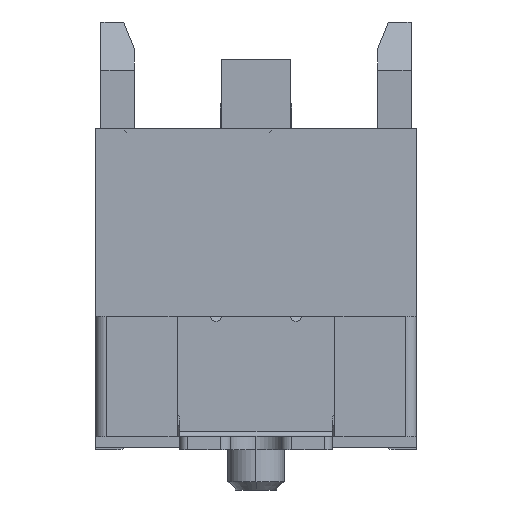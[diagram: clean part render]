
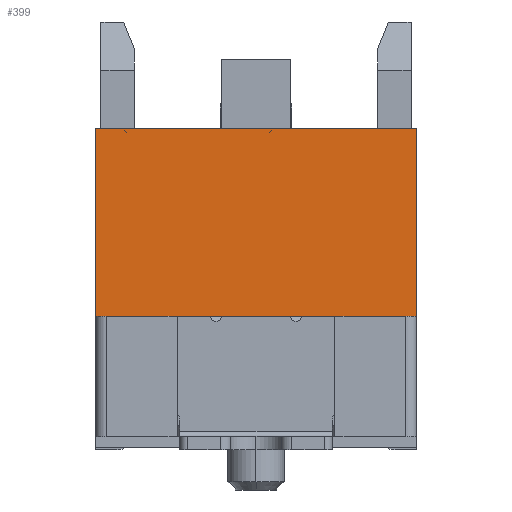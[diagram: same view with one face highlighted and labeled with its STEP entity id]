
A CAD part, left-side view. The second image highlights one B-rep face of the part: STEP entity #399.
In plain terms, the highlighted planar face has unit normal (-1, 0, 0).
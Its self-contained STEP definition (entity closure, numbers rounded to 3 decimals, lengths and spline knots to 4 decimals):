
#150=CARTESIAN_POINT('Vertex',(-26.4,3.,5.4)) ;
#153=CARTESIAN_POINT('Line Origine',(-26.4,3.,7.15)) ;
#157=CARTESIAN_POINT('Vertex',(-26.4,3.,8.9)) ;
#344=CARTESIAN_POINT('Line Origine',(-26.4,0.,8.9)) ;
#348=CARTESIAN_POINT('Vertex',(-26.4,-3.,8.9)) ;
#376=CARTESIAN_POINT('Axis2P3D Location',(-26.4,-3.,5.4)) ;
#381=CARTESIAN_POINT('Line Origine',(-26.4,0.,5.4)) ;
#385=CARTESIAN_POINT('Vertex',(-26.4,-3.,5.4)) ;
#388=CARTESIAN_POINT('Line Origine',(-26.4,-3.,7.15)) ;
#154=DIRECTION('Vector Direction',(0.,0.,1.)) ;
#345=DIRECTION('Vector Direction',(0.,1.,0.)) ;
#377=DIRECTION('Axis2P3D Direction',(-1.,0.,0.)) ;
#378=DIRECTION('Axis2P3D XDirection',(0.,0.,1.)) ;
#382=DIRECTION('Vector Direction',(0.,1.,0.)) ;
#389=DIRECTION('Vector Direction',(0.,0.,1.)) ;
#379=AXIS2_PLACEMENT_3D('Plane Axis2P3D',#376,#377,#378) ;
#394=ORIENTED_EDGE('',*,*,#387,.F.) ;
#395=ORIENTED_EDGE('',*,*,#392,.T.) ;
#396=ORIENTED_EDGE('',*,*,#350,.T.) ;
#397=ORIENTED_EDGE('',*,*,#159,.F.) ;
#155=VECTOR('Line Direction',#154,1.) ;
#346=VECTOR('Line Direction',#345,1.) ;
#383=VECTOR('Line Direction',#382,1.) ;
#390=VECTOR('Line Direction',#389,1.) ;
#399=ADVANCED_FACE('\X2\585180F6\X0\2',(#398),#380,.T.) ;
#159=EDGE_CURVE('',#151,#158,#156,.T.) ;
#350=EDGE_CURVE('',#349,#158,#347,.T.) ;
#387=EDGE_CURVE('',#386,#151,#384,.T.) ;
#392=EDGE_CURVE('',#386,#349,#391,.T.) ;
#393=EDGE_LOOP('',(#394,#395,#396,#397)) ;
#398=FACE_OUTER_BOUND('',#393,.T.) ;
#156=LINE('Line',#153,#155) ;
#347=LINE('Line',#344,#346) ;
#384=LINE('Line',#381,#383) ;
#391=LINE('Line',#388,#390) ;
#380=PLANE('Plane',#379) ;
#151=VERTEX_POINT('',#150) ;
#158=VERTEX_POINT('',#157) ;
#349=VERTEX_POINT('',#348) ;
#386=VERTEX_POINT('',#385) ;
